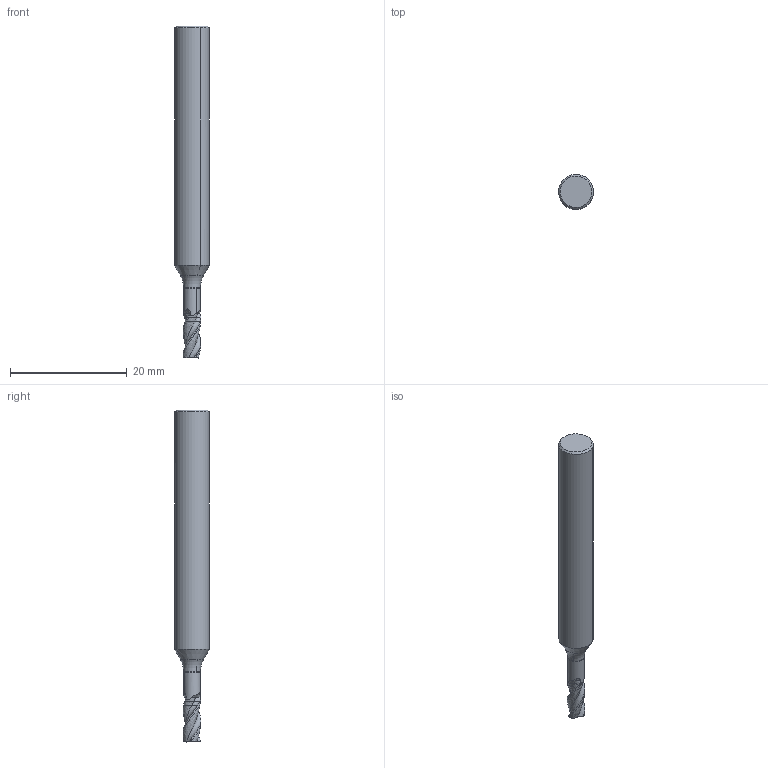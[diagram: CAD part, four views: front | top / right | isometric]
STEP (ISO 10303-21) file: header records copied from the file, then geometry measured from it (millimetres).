
FILE_DESCRIPTION(('CATIA V5 STEP','CAx-IF Rec.Pracs.--- Model Styling and Organization---1.2---2011-12-15'),'2;1');
FILE_NAME('I:\isr\design\admin8\users\raheeb_a\5622971 D.stp','2018-02-05T09:22:44+00:00',('none'),('none'),'CATIA Version 5 Release 21 SP 5 (IN-10)','CATIA V5 STEP AP214','none');
FILE_SCHEMA(('AUTOMOTIVE_DESIGN { 1 0 10303 214 1 1 1 1 }'));
Length unit declared in the file: millimetre
Products named in the file (1): ECA-H3 03-07/12C06CF-R01
Bounding box: 6 x 6 x 57 mm (x, y, z)
Volume: 1277.5 mm3; surface area: 980.7 mm2
Topology: 2 solids, 2 shells, 58 faces, 156 edges, 101 vertices
Faces by surface type: bspline 24, cylinder 14, cone 9, torus 8, plane 3
Entity records: 2475 total; most frequent: CARTESIAN_POINT 1361, ORIENTED_EDGE 300, EDGE_CURVE 150, DIRECTION 109, VERTEX_POINT 96, AXIS2_PLACEMENT_3D 66, B_SPLINE_CURVE_WITH_KNOTS 65, ADVANCED_FACE 58
